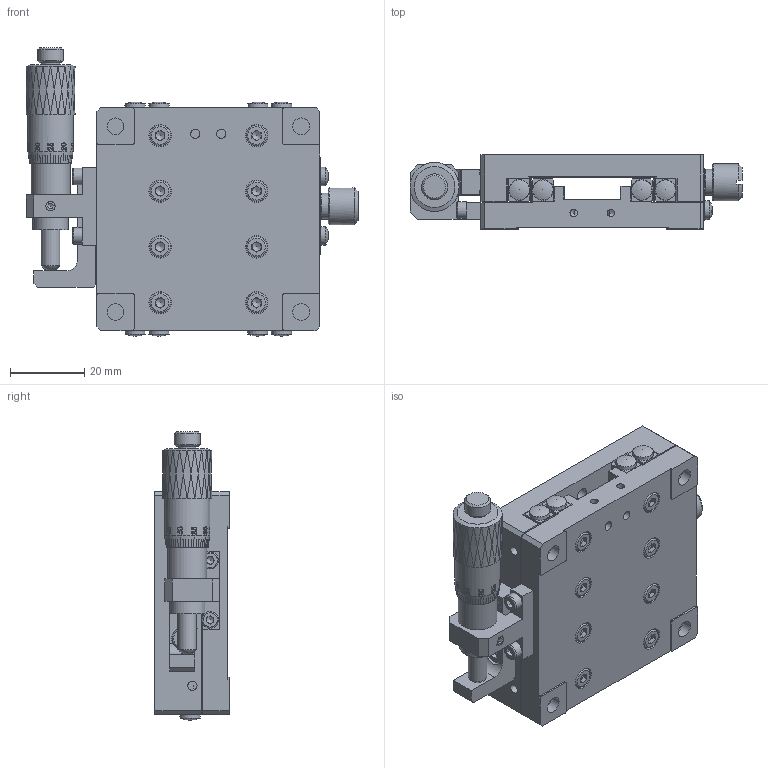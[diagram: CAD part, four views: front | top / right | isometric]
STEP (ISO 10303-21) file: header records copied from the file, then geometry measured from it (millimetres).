
FILE_DESCRIPTION (( 'STEP AP203' ), '1' );
FILE_NAME ('BPA60.STEP', '2024-07-23T12:51:22', ( 'Windows User' ), ( 'P R C' ), 'SwSTEP 2.0', 'SolidWorks 2024', '' );
FILE_SCHEMA (( 'CONFIG_CONTROL_DESIGN' ));
Length unit declared in the file: millimetre
Products named in the file (1): BPA60
Bounding box: 89.4 x 20 x 77.6 mm (x, y, z)
Volume: 65809.4 mm3; surface area: 43109.7 mm2
Topology: 37 solids, 37 shells, 1870 faces, 4645 edges, 2981 vertices
Faces by surface type: plane 859, bspline 403, cylinder 339, cone 246, torus 20, sphere 3
Full cylindrical faces by diameter (mm): 2 x22, 2.05 x12, 2.5 x19, 2.55 x16, 2.95 x9, 3 x21, 3.1 x2, 3.2 x2, 3.3 x8, 3.4 x16, 4.4 x16, 4.5 x6, 5 x5, 5.5 x18, 5.8 x2, 6 x16, 7 x2, 8 x4, 8.5 x1, 9.5 x2, 10 x1, 10.5 x1, 12.2 x1, 15 x1
Entity records: 84560 total; most frequent: CARTESIAN_POINT 45940, ORIENTED_EDGE 8272, DIRECTION 6359, EDGE_CURVE 4136, VERTEX_POINT 2855, EDGE_LOOP 2589, AXIS2_PLACEMENT_3D 2342, FACE_OUTER_BOUND 2078
